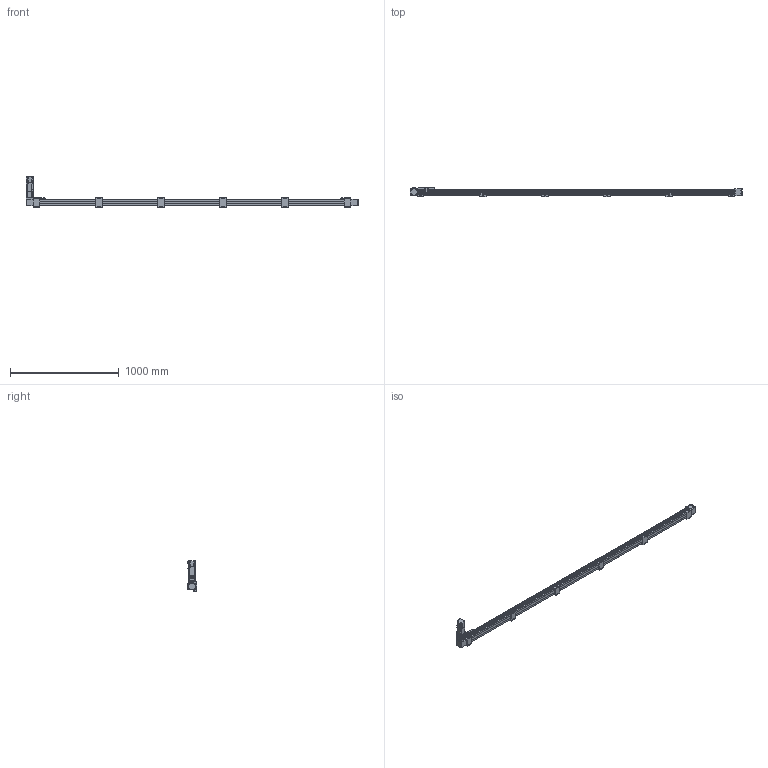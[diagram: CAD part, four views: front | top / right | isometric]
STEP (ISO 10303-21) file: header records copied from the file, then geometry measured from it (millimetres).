
FILE_DESCRIPTION(/* description */ ('STEP AP203'),/* implementation_level */ '2;1');
FILE_NAME(/* name */ 'SK60-P13-S2750-BL-T40-C1-N(0)',/* time_stamp */ '2023-04-06T03:38:14+02:00',/* author */ ('License CC BY-ND 4.0'),/* organization */ ('CADENAS'),/* preprocessor_version */ 'ST-DEVELOPER v19.3',/* originating_system */ 'PARTsolutions',/* authorisation */ ' ');
FILE_SCHEMA (('CONFIG_CONTROL_DESIGN'));
Length unit declared in the file: millimetre
Products named in the file (11): SK60-P13-S2750-BL-T40-C1-N(0); PSC140-sensor; SK60-S450_seat; SK60-S450-BL-C1_slider; SK60_body3; SK60_body6; SK60-BL_body2; T40-p1; SK60_body5; SK60_body4; SK60-S2750-BL-C1_body
Assembly tree (21 placements, depth 2):
  SK60-P13-S2750-BL-T40-C1-N(0)
    PSC140-sensor  x3
    SK60-S450_seat  x6
    SK60-S450-BL-C1_slider
    SK60_body3  x3
    SK60_body6  x2
    SK60-BL_body2  x2
    T40-p1
    SK60_body5
    SK60_body4
    SK60-S2750-BL-C1_body
Bounding box: 3050 x 90 x 278.2 mm (x, y, z)
Volume: 10969608 mm3; surface area: 1330598.8 mm2
Topology: 21 solids, 25 shells, 1010 faces, 2501 edges, 1650 vertices
Faces by surface type: plane 640, cylinder 330, cone 38, torus 2
Full cylindrical faces by diameter (mm): 2.8 x3, 3.3 x4, 4.2 x8, 4.5 x26, 4.6 x3, 4.917 x32, 5 x2, 5.478 x4, 5.5 x35, 6.5 x12, 8 x4, 8.5 x4, 9.988 x4, 10 x24, 13.556 x1, 14 x1, 14.586 x1, 19.692 x1, 38.432 x2, 43 x1, 44 x3, 47 x2, 50 x2
Entity records: 19403 total; most frequent: DIRECTION 3300, CARTESIAN_POINT 3293, ORIENTED_EDGE 3050, EDGE_CURVE 1525, AXIS2_PLACEMENT_3D 1104, LINE 1092, VECTOR 1092, VERTEX_POINT 1077
